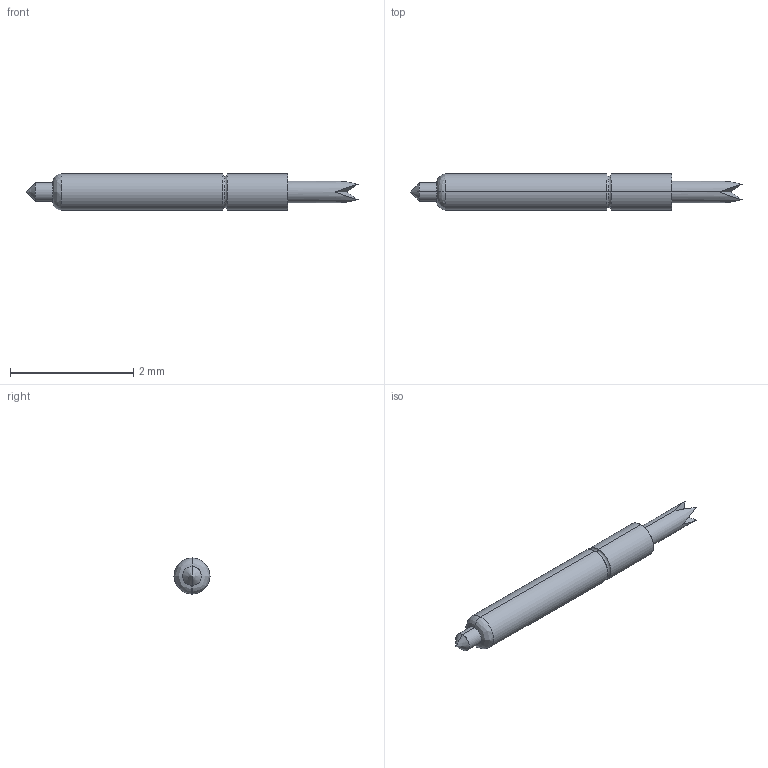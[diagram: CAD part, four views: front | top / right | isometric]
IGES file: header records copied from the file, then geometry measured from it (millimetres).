
Start section: SolidWorks IGES file using analytic representation for surfaces
Global section: file name: Z:\probe solid model mockups\Solidworks models\IGES Files\CSP8-15 IGES files\CSP8-15LB RECD.IGS; native system: SolidWorks 2006 by SolidWorks Corporation; preprocessor: SolidWorks 2006 by SolidWorks Corporation; author: tsakatani; date: 080108.152211; units: inch
Bounding box: 5.38 x 0.58 x 0.58 mm (x, y, z)
Surface area: 9 mm2 (no closed solid volume)
Topology: 0 solids, 0 shells, 25 faces, 142 edges, 140 vertices
Faces by surface type: bspline 15, revolution 10
